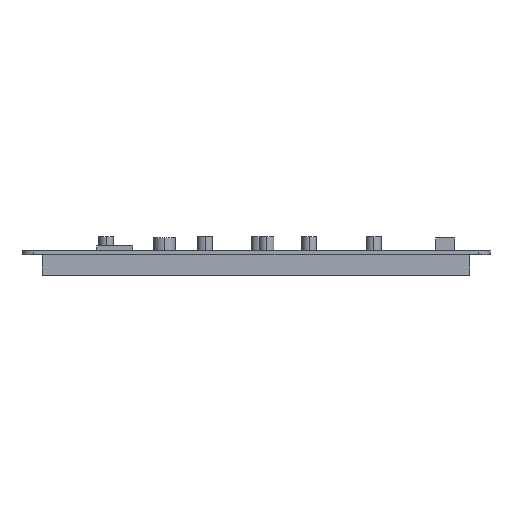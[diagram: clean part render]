
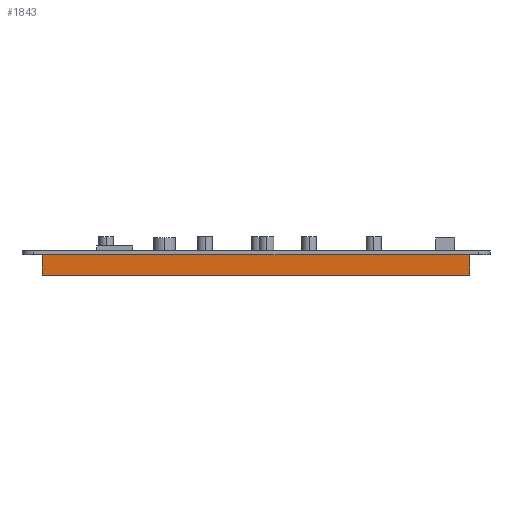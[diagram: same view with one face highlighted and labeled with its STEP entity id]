
A CAD part, left-side view. The second image highlights one B-rep face of the part: STEP entity #1843.
In plain terms, the highlighted planar face has unit normal (-1, 0, 0).
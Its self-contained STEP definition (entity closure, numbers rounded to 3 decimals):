
#421=DIRECTION('',(0.,1.,0.));
#422=VECTOR('',#421,176.8);
#423=CARTESIAN_POINT('',(-113.75,-91.55,-1.6));
#424=LINE('',#423,#422);
#577=DIRECTION('',(0.,0.,-1.));
#578=VECTOR('',#577,8.5);
#579=CARTESIAN_POINT('',(-113.75,-91.55,-1.6));
#580=LINE('',#579,#578);
#589=DIRECTION('',(0.,0.,-1.));
#590=VECTOR('',#589,8.5);
#591=CARTESIAN_POINT('',(-113.75,85.25,-1.6));
#592=LINE('',#591,#590);
#593=DIRECTION('',(0.,1.,0.));
#594=VECTOR('',#593,176.8);
#595=CARTESIAN_POINT('',(-113.75,-91.55,-10.1));
#596=LINE('',#595,#594);
#1085=CARTESIAN_POINT('',(-113.75,-91.55,-10.1));
#1086=CARTESIAN_POINT('',(-113.75,85.25,-10.1));
#1087=VERTEX_POINT('',#1085);
#1088=VERTEX_POINT('',#1086);
#1093=CARTESIAN_POINT('',(-113.75,-91.55,-1.6));
#1094=CARTESIAN_POINT('',(-113.75,85.25,-1.6));
#1095=VERTEX_POINT('',#1093);
#1096=VERTEX_POINT('',#1094);
#1829=CARTESIAN_POINT('',(-113.75,-91.55,-1.6));
#1830=DIRECTION('',(-1.,0.,0.));
#1831=DIRECTION('',(0.,1.,0.));
#1832=AXIS2_PLACEMENT_3D('',#1829,#1830,#1831);
#1833=PLANE('',#1832);
#1834=ORIENTED_EDGE('',*,*,#1438,.F.);
#1836=ORIENTED_EDGE('',*,*,#1835,.T.);
#1838=ORIENTED_EDGE('',*,*,#1837,.T.);
#1840=ORIENTED_EDGE('',*,*,#1839,.F.);
#1841=EDGE_LOOP('',(#1834,#1836,#1838,#1840));
#1842=FACE_OUTER_BOUND('',#1841,.F.);
#1438=EDGE_CURVE('',#1095,#1096,#424,.T.);
#1835=EDGE_CURVE('',#1095,#1087,#580,.T.);
#1837=EDGE_CURVE('',#1087,#1088,#596,.T.);
#1839=EDGE_CURVE('',#1096,#1088,#592,.T.);
#1843=ADVANCED_FACE('',(#1842),#1833,.T.);
